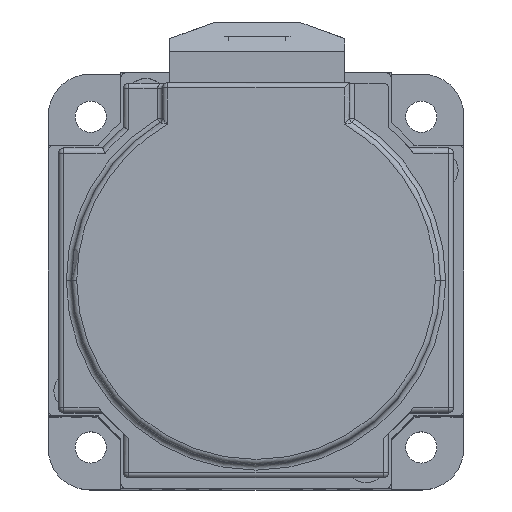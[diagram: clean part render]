
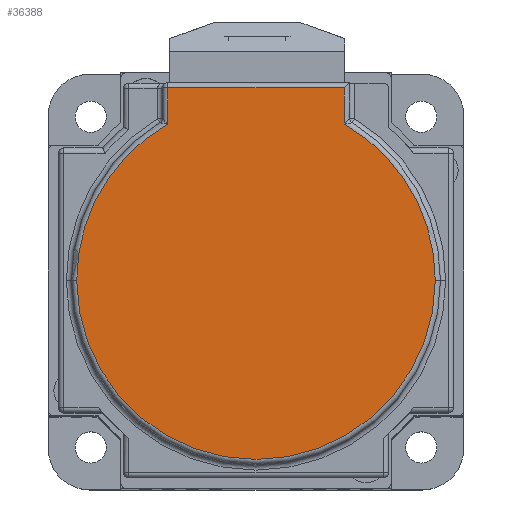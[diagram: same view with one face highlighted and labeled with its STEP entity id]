
A CAD part, top view. The second image highlights one B-rep face of the part: STEP entity #36388.
In plain terms, the highlighted planar face has unit normal (0, 0, 1).
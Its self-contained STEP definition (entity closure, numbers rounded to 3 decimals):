
#44 = EDGE_CURVE ( 'NONE', #8948, #24306, #21133, .T. ) ;
#457 = CARTESIAN_POINT ( 'NONE',  ( 17., 35.055, 39.5 ) ) ;
#479 = PLANE ( 'NONE',  #32961 ) ;
#1303 = ORIENTED_EDGE ( 'NONE', *, *, #2646, .T. ) ;
#1871 = CIRCLE ( 'NONE', #10021, 34.5 ) ;
#2646 = EDGE_CURVE ( 'NONE', #24306, #10288, #24215, .T. ) ;
#3609 = CARTESIAN_POINT ( 'NONE',  ( 0., 0., 39.5 ) ) ;
#5088 = ORIENTED_EDGE ( 'NONE', *, *, #23666, .T. ) ;
#5300 = DIRECTION ( 'NONE',  ( -1., 0., 0. ) ) ;
#5702 = CIRCLE ( 'NONE', #25621, 34.5 ) ;
#6750 = DIRECTION ( 'NONE',  ( 0., 0., 1. ) ) ;
#8948 = VERTEX_POINT ( 'NONE', #11441 ) ;
#9736 = CARTESIAN_POINT ( 'NONE',  ( 17., 33.11, 39.5 ) ) ;
#10021 = AXIS2_PLACEMENT_3D ( 'NONE', #29809, #11228, #32928 ) ;
#10288 = VERTEX_POINT ( 'NONE', #31722 ) ;
#11228 = DIRECTION ( 'NONE',  ( 0., 0., 1. ) ) ;
#11441 = CARTESIAN_POINT ( 'NONE',  ( 17., 37., 39.5 ) ) ;
#11741 = CARTESIAN_POINT ( 'NONE',  ( -17., 38., 39.5 ) ) ;
#12049 = DIRECTION ( 'NONE',  ( 0., 1., 0. ) ) ;
#12364 = B_SPLINE_CURVE_WITH_KNOTS ( 'NONE', 3,
 ( #34568, #9736, #457, #22195 ),
 .UNSPECIFIED., .F., .F.,
 ( 4, 4 ),
 ( 0., 1. ),
 .UNSPECIFIED. ) ;
#14096 = CARTESIAN_POINT ( 'NONE',  ( -34.5, 0., 39.5 ) ) ;
#15219 = VECTOR ( 'NONE', #12049, 1000. ) ;
#15330 = CARTESIAN_POINT ( 'NONE',  ( 0., 0., 39.5 ) ) ;
#16321 = CARTESIAN_POINT ( 'NONE',  ( 17., 30.021, 39.5 ) ) ;
#16916 = CARTESIAN_POINT ( 'NONE',  ( 0., 0., 39.5 ) ) ;
#17197 = VERTEX_POINT ( 'NONE', #16321 ) ;
#17761 = ORIENTED_EDGE ( 'NONE', *, *, #34882, .T. ) ;
#17826 = CARTESIAN_POINT ( 'NONE',  ( 0., 37., 39.5 ) ) ;
#18064 = EDGE_LOOP ( 'NONE', ( #22671, #1303, #5088, #17761, #27435, #36516, #29740 ) ) ;
#18432 = DIRECTION ( 'NONE',  ( 1., 0., 0. ) ) ;
#19998 = DIRECTION ( 'NONE',  ( 1., 0., 0. ) ) ;
#20168 = CARTESIAN_POINT ( 'NONE',  ( 17., 31.165, 39.5 ) ) ;
#20326 = EDGE_CURVE ( 'NONE', #32193, #8948, #12364, .T. ) ;
#20358 = VERTEX_POINT ( 'NONE', #34704 ) ;
#21133 = LINE ( 'NONE', #17826, #36706 ) ;
#21516 = CARTESIAN_POINT ( 'NONE',  ( 17., 30.021, 39.5 ) ) ;
#22195 = CARTESIAN_POINT ( 'NONE',  ( 17., 37., 39.5 ) ) ;
#22221 = VERTEX_POINT ( 'NONE', #14096 ) ;
#22671 = ORIENTED_EDGE ( 'NONE', *, *, #44, .T. ) ;
#23437 = LINE ( 'NONE', #21516, #15219 ) ;
#23666 = EDGE_CURVE ( 'NONE', #10288, #22221, #5702, .T. ) ;
#23961 = EDGE_CURVE ( 'NONE', #20358, #17197, #34353, .T. ) ;
#24215 = LINE ( 'NONE', #11741, #39790 ) ;
#24306 = VERTEX_POINT ( 'NONE', #28158 ) ;
#25621 = AXIS2_PLACEMENT_3D ( 'NONE', #15330, #37039, #18432 ) ;
#27435 = ORIENTED_EDGE ( 'NONE', *, *, #23961, .T. ) ;
#28158 = CARTESIAN_POINT ( 'NONE',  ( -17., 37., 39.5 ) ) ;
#28481 = DIRECTION ( 'NONE',  ( 1., 0., 0. ) ) ;
#29740 = ORIENTED_EDGE ( 'NONE', *, *, #20326, .T. ) ;
#29809 = CARTESIAN_POINT ( 'NONE',  ( 0., 0., 39.5 ) ) ;
#31722 = CARTESIAN_POINT ( 'NONE',  ( -17., 30.021, 39.5 ) ) ;
#32193 = VERTEX_POINT ( 'NONE', #20168 ) ;
#32928 = DIRECTION ( 'NONE',  ( 1., 0., 0. ) ) ;
#32961 = AXIS2_PLACEMENT_3D ( 'NONE', #3609, #6750, #28481 ) ;
#33463 = DIRECTION ( 'NONE',  ( 0., -1., 0. ) ) ;
#33727 = AXIS2_PLACEMENT_3D ( 'NONE', #16916, #38642, #19998 ) ;
#34353 = CIRCLE ( 'NONE', #33727, 34.5 ) ;
#34568 = CARTESIAN_POINT ( 'NONE',  ( 17., 31.165, 39.5 ) ) ;
#34704 = CARTESIAN_POINT ( 'NONE',  ( 34.5, 0., 39.5 ) ) ;
#34882 = EDGE_CURVE ( 'NONE', #22221, #20358, #1871, .T. ) ;
#36388 = ADVANCED_FACE ( 'NONE', ( #38768 ), #479, .T. ) ;
#36516 = ORIENTED_EDGE ( 'NONE', *, *, #39289, .T. ) ;
#36706 = VECTOR ( 'NONE', #5300, 1000. ) ;
#37039 = DIRECTION ( 'NONE',  ( 0., 0., 1. ) ) ;
#38642 = DIRECTION ( 'NONE',  ( 0., 0., 1. ) ) ;
#38768 = FACE_OUTER_BOUND ( 'NONE', #18064, .T. ) ;
#39289 = EDGE_CURVE ( 'NONE', #17197, #32193, #23437, .T. ) ;
#39790 = VECTOR ( 'NONE', #33463, 1000. ) ;
